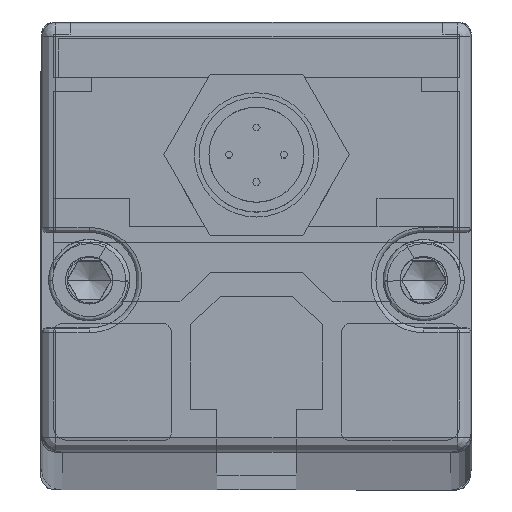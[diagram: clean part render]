
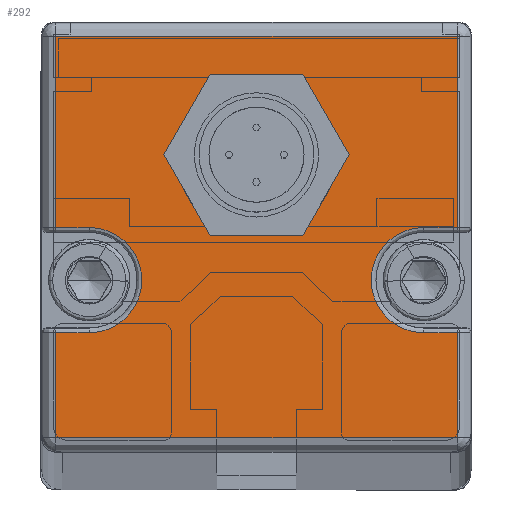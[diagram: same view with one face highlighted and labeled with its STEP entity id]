
A CAD part, top view. The second image highlights one B-rep face of the part: STEP entity #292.
In plain terms, the highlighted planar face has unit normal (0, 0, 1) as drawn and (0, 1, 0) by its records, which use the part's own axes.
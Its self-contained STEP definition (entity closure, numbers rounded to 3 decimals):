
#292 = ADVANCED_FACE ( 'NONE', ( #3884, #3877 ), #549, .T. ) ;
#547 = DIRECTION ( 'NONE',  ( 0., 0., 1. ) ) ;
#549 = PLANE ( 'NONE',  #8327 ) ;
#551 = CARTESIAN_POINT ( 'NONE',  ( 22.5, 7., 22.5 ) ) ;
#554 = DIRECTION ( 'NONE',  ( 0., 1., 0. ) ) ;
#918 = ORIENTED_EDGE ( 'NONE', *, *, #7668, .T. ) ;
#920 = ORIENTED_EDGE ( 'NONE', *, *, #7701, .T. ) ;
#923 = ORIENTED_EDGE ( 'NONE', *, *, #7780, .T. ) ;
#924 = ORIENTED_EDGE ( 'NONE', *, *, #7760, .T. ) ;
#926 = ORIENTED_EDGE ( 'NONE', *, *, #7729, .T. ) ;
#928 = ORIENTED_EDGE ( 'NONE', *, *, #7727, .T. ) ;
#929 = ORIENTED_EDGE ( 'NONE', *, *, #7790, .F. ) ;
#931 = ORIENTED_EDGE ( 'NONE', *, *, #7821, .T. ) ;
#934 = ORIENTED_EDGE ( 'NONE', *, *, #7799, .T. ) ;
#935 = ORIENTED_EDGE ( 'NONE', *, *, #7866, .T. ) ;
#937 = ORIENTED_EDGE ( 'NONE', *, *, #7817, .T. ) ;
#938 = ORIENTED_EDGE ( 'NONE', *, *, #7667, .T. ) ;
#957 = ORIENTED_EDGE ( 'NONE', *, *, #7715, .T. ) ;
#960 = ORIENTED_EDGE ( 'NONE', *, *, #7718, .F. ) ;
#2098 = CARTESIAN_POINT ( 'NONE',  ( 0., 7., -2.1 ) ) ;
#2540 = EDGE_LOOP ( 'NONE', ( #957, #926, #928, #937, #938, #918, #923, #920, #924, #934, #931, #935 ) ) ;
#2587 = EDGE_LOOP ( 'NONE', ( #929, #960 ) ) ;
#2811 = VERTEX_POINT ( 'NONE', #2098 ) ;
#3046 = CARTESIAN_POINT ( 'NONE',  ( 22.5, 7., 10. ) ) ;
#3047 = DIRECTION ( 'NONE',  ( -1., 0., 0. ) ) ;
#3089 = CARTESIAN_POINT ( 'NONE',  ( 22.5, 7., -1. ) ) ;
#3090 = DIRECTION ( 'NONE',  ( 1., 0., 0. ) ) ;
#3098 = CARTESIAN_POINT ( 'NONE',  ( -21., 7., 22.5 ) ) ;
#3099 = DIRECTION ( 'NONE',  ( 0., 0., 1. ) ) ;
#3218 = CARTESIAN_POINT ( 'NONE',  ( 22.5, 7., 21. ) ) ;
#3229 = DIRECTION ( 'NONE',  ( 1., 0., 0. ) ) ;
#3877 = FACE_OUTER_BOUND ( 'NONE', #2540, .T. ) ;
#3884 = FACE_BOUND ( 'NONE', #2587, .T. ) ;
#4233 = AXIS2_PLACEMENT_3D ( 'NONE', #4898, #4906, #4907 ) ;
#4235 = AXIS2_PLACEMENT_3D ( 'NONE', #4916, #4927, #4928 ) ;
#4249 = AXIS2_PLACEMENT_3D ( 'NONE', #4994, #5006, #5007 ) ;
#4261 = AXIS2_PLACEMENT_3D ( 'NONE', #5071, #5077, #5078 ) ;
#4868 = CARTESIAN_POINT ( 'NONE',  ( 22.5, 7., -1. ) ) ;
#4869 = DIRECTION ( 'NONE',  ( 1., 0., 0. ) ) ;
#4896 = CARTESIAN_POINT ( 'NONE',  ( 21., 7., 9.5 ) ) ;
#4897 = DIRECTION ( 'NONE',  ( 0., 0., -1. ) ) ;
#4898 = CARTESIAN_POINT ( 'NONE',  ( 0., 7., -8.6 ) ) ;
#4906 = DIRECTION ( 'NONE',  ( 0., 1., 0. ) ) ;
#4907 = DIRECTION ( 'NONE',  ( 0., 0., 1. ) ) ;
#4916 = CARTESIAN_POINT ( 'NONE',  ( 17.5, 7., 4.5 ) ) ;
#4927 = DIRECTION ( 'NONE',  ( 0., -1., 0. ) ) ;
#4928 = DIRECTION ( 'NONE',  ( 0., 0., 1. ) ) ;
#4931 = CARTESIAN_POINT ( 'NONE',  ( 22.5, 7., 10. ) ) ;
#4932 = DIRECTION ( 'NONE',  ( -1., 0., 0. ) ) ;
#4994 = CARTESIAN_POINT ( 'NONE',  ( -17.5, 7., 4.5 ) ) ;
#5006 = DIRECTION ( 'NONE',  ( 0., -1., 0. ) ) ;
#5007 = DIRECTION ( 'NONE',  ( 0., 0., 1. ) ) ;
#5051 = CARTESIAN_POINT ( 'NONE',  ( -21., 7., 22.5 ) ) ;
#5052 = DIRECTION ( 'NONE',  ( 0., 0., 1. ) ) ;
#5071 = CARTESIAN_POINT ( 'NONE',  ( 0., 7., -8.6 ) ) ;
#5077 = DIRECTION ( 'NONE',  ( 0., 1., 0. ) ) ;
#5078 = DIRECTION ( 'NONE',  ( 0., 0., 1. ) ) ;
#5174 = LINE ( 'NONE', #6020, #5187 ) ;
#5185 = LINE ( 'NONE', #6022, #5186 ) ;
#5186 = VECTOR ( 'NONE', #6023, 1000. ) ;
#5187 = VECTOR ( 'NONE', #6025, 1000. ) ;
#5238 = LINE ( 'NONE', #4868, #5239 ) ;
#5239 = VECTOR ( 'NONE', #4869, 1000. ) ;
#5263 = LINE ( 'NONE', #4896, #5264 ) ;
#5264 = VECTOR ( 'NONE', #4897, 1000. ) ;
#5269 = CIRCLE ( 'NONE', #4233, 6.5 ) ;
#5283 = CIRCLE ( 'NONE', #4235, 5.5 ) ;
#5284 = LINE ( 'NONE', #4931, #5285 ) ;
#5285 = VECTOR ( 'NONE', #4932, 1000. ) ;
#5490 = VERTEX_POINT ( 'NONE', #9373 ) ;
#5751 = CARTESIAN_POINT ( 'NONE',  ( 21., 7., -21. ) ) ;
#5759 = CARTESIAN_POINT ( 'NONE',  ( -21., 7., -21. ) ) ;
#5764 = CARTESIAN_POINT ( 'NONE',  ( -17.5, 7., -1. ) ) ;
#5784 = CARTESIAN_POINT ( 'NONE',  ( -17.5, 7., 10. ) ) ;
#5789 = CARTESIAN_POINT ( 'NONE',  ( 21., 7., -1. ) ) ;
#5804 = CARTESIAN_POINT ( 'NONE',  ( 21., 7., 21. ) ) ;
#5809 = CARTESIAN_POINT ( 'NONE',  ( 21., 7., 10. ) ) ;
#5819 = CARTESIAN_POINT ( 'NONE',  ( -21., 7., -1. ) ) ;
#5826 = CARTESIAN_POINT ( 'NONE',  ( -21., 7., 10. ) ) ;
#5930 = CARTESIAN_POINT ( 'NONE',  ( -21., 7., 21. ) ) ;
#5934 = CARTESIAN_POINT ( 'NONE',  ( 17.5, 7., -1. ) ) ;
#5947 = CARTESIAN_POINT ( 'NONE',  ( 17.5, 7., 10. ) ) ;
#6020 = CARTESIAN_POINT ( 'NONE',  ( 22.5, 7., -21. ) ) ;
#6022 = CARTESIAN_POINT ( 'NONE',  ( 21., 7., -22.5 ) ) ;
#6023 = DIRECTION ( 'NONE',  ( 0., 0., -1. ) ) ;
#6025 = DIRECTION ( 'NONE',  ( -1., 0., 0. ) ) ;
#6668 = VERTEX_POINT ( 'NONE', #5751 ) ;
#6676 = VERTEX_POINT ( 'NONE', #5759 ) ;
#6681 = VERTEX_POINT ( 'NONE', #5764 ) ;
#6701 = VERTEX_POINT ( 'NONE', #5784 ) ;
#6706 = VERTEX_POINT ( 'NONE', #5789 ) ;
#6721 = VERTEX_POINT ( 'NONE', #5804 ) ;
#6726 = VERTEX_POINT ( 'NONE', #5809 ) ;
#6736 = VERTEX_POINT ( 'NONE', #5819 ) ;
#6743 = VERTEX_POINT ( 'NONE', #5826 ) ;
#7603 = VERTEX_POINT ( 'NONE', #5930 ) ;
#7611 = VERTEX_POINT ( 'NONE', #5934 ) ;
#7619 = VERTEX_POINT ( 'NONE', #5947 ) ;
#7667 = EDGE_CURVE ( 'NONE', #6706, #6668, #5185, .T. ) ;
#7668 = EDGE_CURVE ( 'NONE', #6668, #6676, #5174, .T. ) ;
#7701 = EDGE_CURVE ( 'NONE', #6736, #6681, #5238, .T. ) ;
#7715 = EDGE_CURVE ( 'NONE', #6721, #6726, #5263, .T. ) ;
#7718 = EDGE_CURVE ( 'NONE', #5490, #2811, #5269, .T. ) ;
#7727 = EDGE_CURVE ( 'NONE', #7619, #7611, #5283, .T. ) ;
#7729 = EDGE_CURVE ( 'NONE', #6726, #7619, #5284, .T. ) ;
#7760 = EDGE_CURVE ( 'NONE', #6681, #6701, #8570, .T. ) ;
#7780 = EDGE_CURVE ( 'NONE', #6676, #6736, #8602, .T. ) ;
#7790 = EDGE_CURVE ( 'NONE', #2811, #5490, #8619, .T. ) ;
#7799 = EDGE_CURVE ( 'NONE', #6701, #6743, #8631, .T. ) ;
#7817 = EDGE_CURVE ( 'NONE', #7611, #6706, #8660, .T. ) ;
#7821 = EDGE_CURVE ( 'NONE', #6743, #7603, #8667, .T. ) ;
#7866 = EDGE_CURVE ( 'NONE', #7603, #6721, #8730, .T. ) ;
#8327 = AXIS2_PLACEMENT_3D ( 'NONE', #551, #554, #547 ) ;
#8570 = CIRCLE ( 'NONE', #4249, 5.5 ) ;
#8602 = LINE ( 'NONE', #5051, #8603 ) ;
#8603 = VECTOR ( 'NONE', #5052, 1000. ) ;
#8619 = CIRCLE ( 'NONE', #4261, 6.5 ) ;
#8631 = LINE ( 'NONE', #3046, #8632 ) ;
#8632 = VECTOR ( 'NONE', #3047, 1000. ) ;
#8660 = LINE ( 'NONE', #3089, #8661 ) ;
#8661 = VECTOR ( 'NONE', #3090, 1000. ) ;
#8667 = LINE ( 'NONE', #3098, #8668 ) ;
#8668 = VECTOR ( 'NONE', #3099, 1000. ) ;
#8710 = VECTOR ( 'NONE', #3229, 1000. ) ;
#8730 = LINE ( 'NONE', #3218, #8710 ) ;
#9373 = CARTESIAN_POINT ( 'NONE',  ( 0., 7., -15.1 ) ) ;
